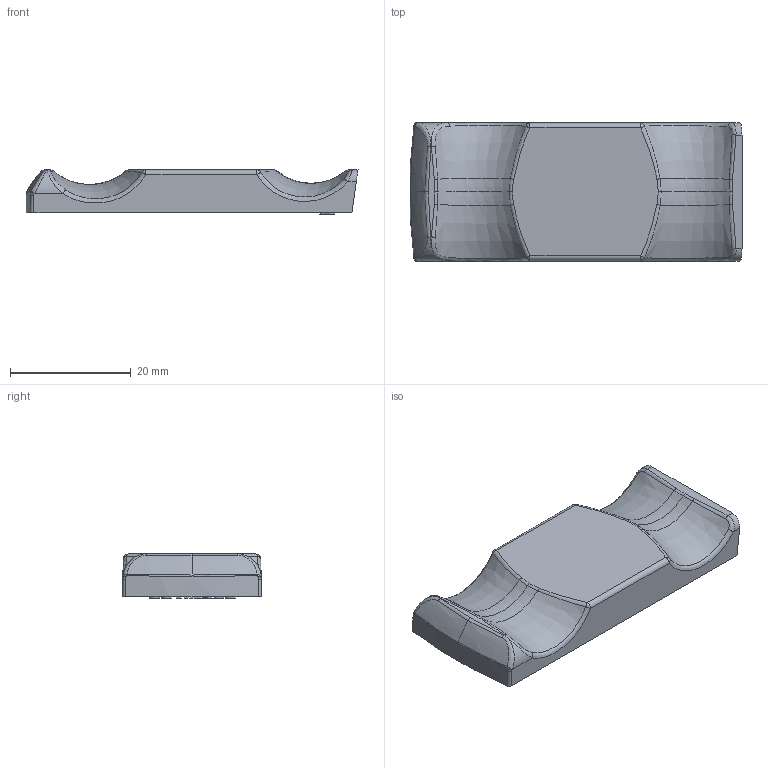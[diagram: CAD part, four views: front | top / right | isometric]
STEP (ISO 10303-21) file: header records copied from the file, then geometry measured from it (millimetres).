
FILE_DESCRIPTION(/* description */ (''),/* implementation_level */ '2;1');
FILE_NAME(/* name */ 'Z:\Tristan Inventor Projekte\Registerwippen Larenim\3374-103.stp',/* time_stamp */ '2022-09-05T15:02:19+02:00',/* author */ ('t.heuss'),/* organization */ ('ÐÅ¶ûÅµÉè¼Æ'),/* preprocessor_version */ 'ST-DEVELOPER v17',/* originating_system */ 'Autodesk Inventor 2018',/* authorisation */ '');
FILE_SCHEMA (('AUTOMOTIVE_DESIGN { 1 0 10303 214 3 1 1 }'));
Length unit declared in the file: millimetre
Products named in the file (1): 3374-103
Bounding box: 54.97 x 23 x 7.3 mm (x, y, z)
Volume: 6587.4 mm3; surface area: 4046.4 mm2
Topology: 1 solids, 1 shells, 221 faces, 565 edges, 362 vertices
Faces by surface type: bspline 120, plane 70, cylinder 10, torus 10, cone 7, sphere 4
Full cylindrical faces by diameter (mm): 4.5 x2
Entity records: 11134 total; most frequent: CARTESIAN_POINT 6076, ORIENTED_EDGE 1130, DIRECTION 767, EDGE_CURVE 565, VERTEX_POINT 362, AXIS2_PLACEMENT_3D 263, LINE 241, VECTOR 241
